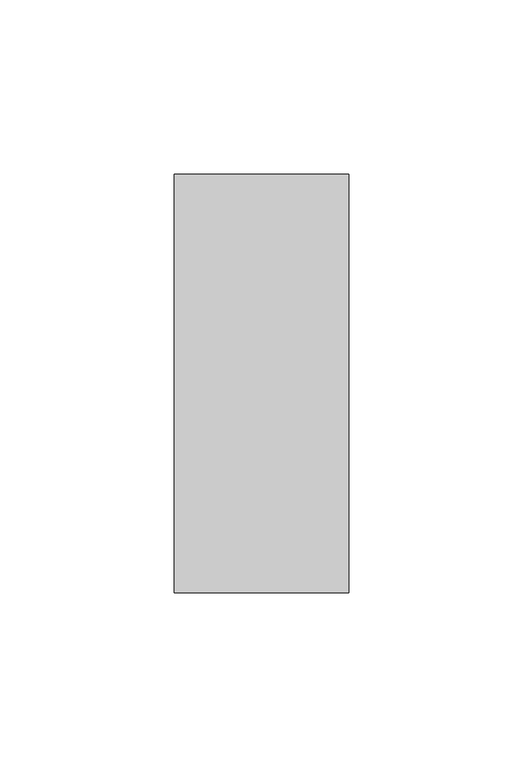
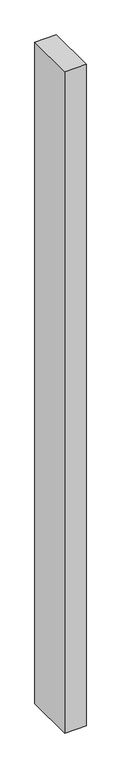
"""IFC4 building model written with IfcOpenShell, lengths in millimetres: member geometry, Прямоугольный импост : 50х120 мм."""

from ifc_helpers import new_model, si_unit, frame, origin, place, context, project, spatial, polyline, outline, extrude, source, transform, mapped, element, save


def member_3330f06f(model_context):
    return source(origin(), model_context, "Body", "SweptSolid", [
        extrude(outline(polyline([(25.0, 60.0), (25.0, -60.0), (-25.0, -60.0), (-25.0, 60.0), (25.0, 60.0)])), frame((0.0, 0.0, -1630.0), z_axis=(0.0, 0.0, 1.0), x_axis=(1.0, 0.0, 0.0)), (0.0, 0.0, 1.0), 1630.0),
    ])


if __name__ == "__main__":
    model = new_model("IFC4")
    model_context = context("Model", 3, world=origin())
    ifc_project = project(units=[si_unit("LENGTHUNIT", "METRE", prefix="MILLI")], contexts=[model_context])
    site = spatial("IfcSite", under=ifc_project)
    building = spatial("IfcBuilding", under=site)
    placement = place(None, origin())
    member_shape = member_3330f06f(model_context)
    element("IfcMember", 1, ObjectType="Прямоугольный импост : 50х120 мм", at=placement, inside=building, context=model_context, shape_type="MappedRepresentation", body=[
        mapped(member_shape, transform((0.0, 0.0, 0.0), x_axis=(1.0, 0.0, 0.0), y_axis=(0.0, 1.0, 0.0), z_axis=(0.0, 0.0, 1.0))),
    ])
    save(model, "model.ifc")
